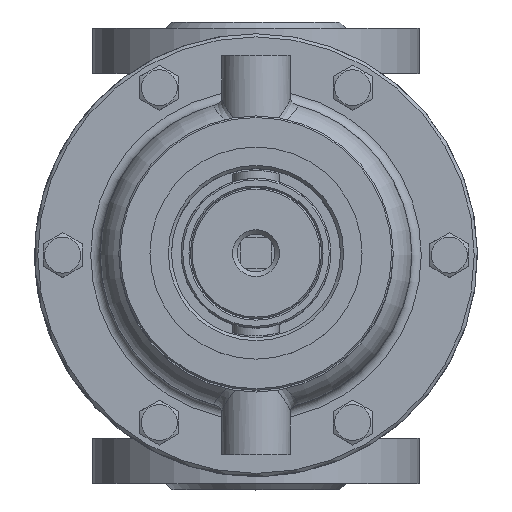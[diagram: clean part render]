
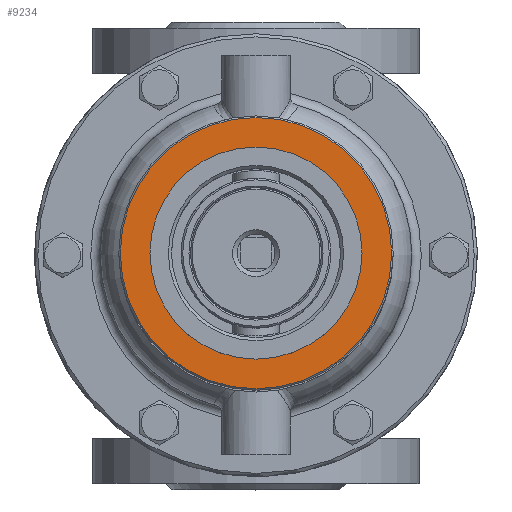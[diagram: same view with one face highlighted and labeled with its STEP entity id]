
A CAD part, top view. The second image highlights one B-rep face of the part: STEP entity #9234.
In plain terms, the highlighted planar face has unit normal (0, 0, 1).
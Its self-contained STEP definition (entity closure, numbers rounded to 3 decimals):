
#1593=PLANE('',#10349);
#1961=FACE_BOUND('',#3605,.T.);
#2592=FACE_OUTER_BOUND('',#3604,.T.);
#3604=EDGE_LOOP('',(#8449));
#3605=EDGE_LOOP('',(#8450));
#4050=CIRCLE('',#10200,34.);
#4113=CIRCLE('',#10348,43.5);
#4853=VERTEX_POINT('',#31769);
#4953=VERTEX_POINT('',#32413);
#5984=EDGE_CURVE('',#4853,#4853,#4050,.T.);
#6116=EDGE_CURVE('',#4953,#4953,#4113,.T.);
#8449=ORIENTED_EDGE('',*,*,#6116,.T.);
#8450=ORIENTED_EDGE('',*,*,#5984,.T.);
#9234=ADVANCED_FACE('',(#2592,#1961),#1593,.T.);
#10200=AXIS2_PLACEMENT_3D('',#31770,#12470,#12471);
#10348=AXIS2_PLACEMENT_3D('',#32414,#12810,#12811);
#10349=AXIS2_PLACEMENT_3D('',#32415,#12812,#12813);
#12470=DIRECTION('center_axis',(0.,0.,
-1.));
#12471=DIRECTION('ref_axis',(-0.814,-0.581,0.));
#12810=DIRECTION('center_axis',(0.,0.,
1.));
#12811=DIRECTION('ref_axis',(0.814,-0.581,0.));
#12812=DIRECTION('center_axis',(0.,0.,1.));
#12813=DIRECTION('ref_axis',(1.,0.,0.));
#31769=CARTESIAN_POINT('',(-7.392,238.401,464.46));
#31770=CARTESIAN_POINT('Origin',(26.608,238.401,464.46));
#32413=CARTESIAN_POINT('',(26.608,194.901,464.46));
#32414=CARTESIAN_POINT('Origin',(26.608,238.401,464.46));
#32415=CARTESIAN_POINT('Origin',(29.084,194.901,464.46));
